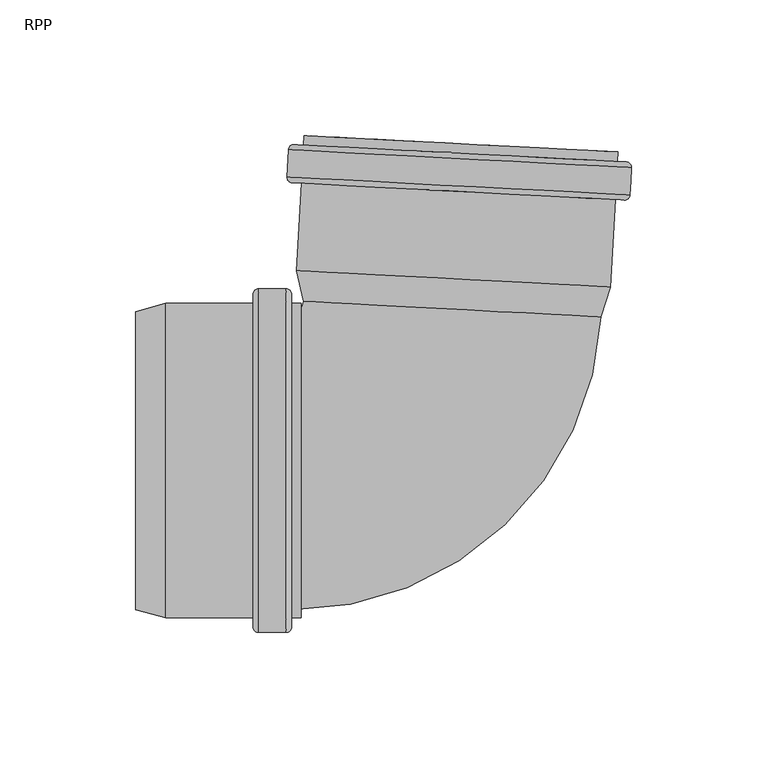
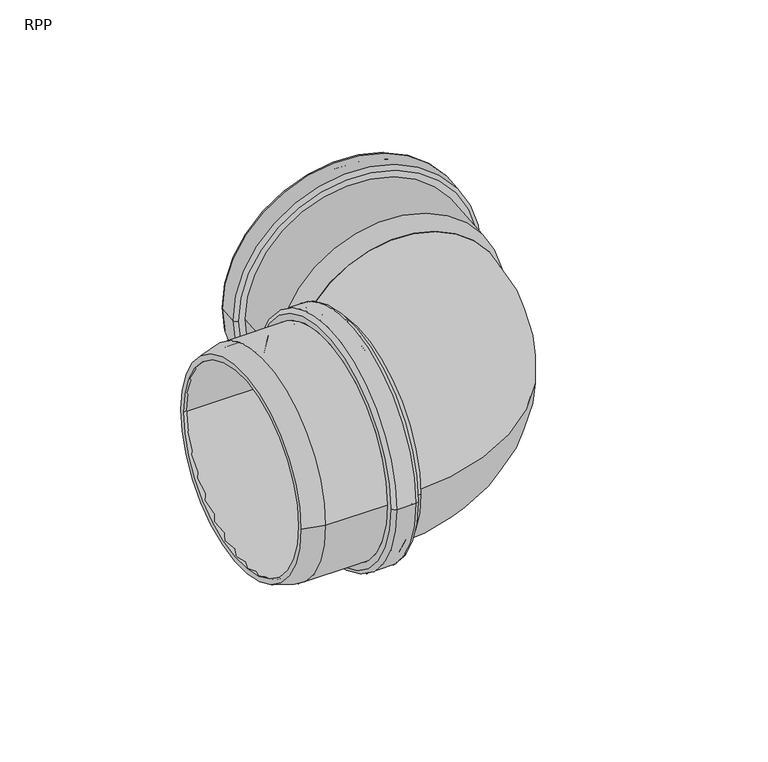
"""IFC4 building model written with IfcOpenShell, lengths in millimetres: pipe fitting geometry, RAUPIANO PLUS Bend : RPP."""

from ifc_helpers import new_model, si_unit, point, frame, origin, place, context, project, spatial, polyline, circle_curve, ellipse_curve, trimmed, source, transform, mapped, element, save
from ifc_brep_helpers import plane_surface, cylinder_surface, revolved_surface, advanced_brep


def rpp_c20ba653(model_context):
    return source(origin(), model_context, "Body", "AdvancedBrep", [
        advanced_brep(
        [(-67.7889094, -55.3, 0.0), (-67.7889094, 55.3, 0.0), (-102.4372953, 55.3, 0.0), (-102.4372953, -55.3, 0.0), (-67.2889094, -60.7, 0.0), (-67.2889094, 60.7, 0.0), (-67.7889094, 60.2, 0.0), (-67.7889094, -60.2, 0.0), (-59.5889094, -60.7, 0.0), (-59.5889094, 60.7, 0.0), (-59.0889094, -60.2, 0.0), (-59.0889094, 60.2, 0.0), (-52.8889094, -55.3, 0.0), (-52.8889094, 55.3, 0.0), (-59.0889094, 55.3, 0.0), (-59.0889094, -55.3, 0.0), (-56.3889094, -58.0, 0.0), (-56.3889094, 58.0, 0.0), (-52.8889094, 58.0, 0.0), (-52.8889094, -58.0, 0.0), (-58.3889094, -63.4, 0.0), (-58.3889094, 63.4, 0.0), (-56.3889094, 61.4, 0.0), (-56.3889094, -61.4, 0.0), (-68.4889094, -63.4, 0.0), (-68.4889094, 63.4, 0.0), (-70.4889094, -61.4, 0.0), (-70.4889094, 61.4, 0.0), (-102.792757, -58.0, 0.0), (-102.792757, 58.0, 0.0), (-70.4889094, 58.0, 0.0), (-70.4889094, -58.0, 0.0), (-113.9889094, -55.0, 0.0), (-113.9889094, 55.0, 0.0), (-113.9889094, 52.2047543, 0.0), (-113.9889094, -52.2047543, 0.0)],
        [
            (0, 1, circle_curve(frame((-67.7889094, 0.0, 0.0), z_axis=(1.0, 0.0, 0.0), x_axis=(0.0, 1.0, 0.0)), 55.3)),
            (1, 2),
            (2, 3, circle_curve(frame((-102.4372953, 0.0, 0.0), z_axis=(-1.0, 0.0, 0.0), x_axis=(0.0, 1.0, 0.0)), 55.3)),
            (3, 0),
            (4, 5, circle_curve(frame((-67.2889094, 0.0, 0.0), z_axis=(1.0, 0.0, 0.0), x_axis=(0.0, 1.0, 0.0)), 60.7)),
            (5, 6, circle_curve(frame((-67.2889094, 60.2, 0.0), z_axis=(0.0, 0.0, 1.0), x_axis=(0.0, -1.0, 0.0)), 0.5)),
            (6, 7, circle_curve(frame((-67.7889094, 0.0, 0.0), z_axis=(-1.0, 0.0, 0.0), x_axis=(0.0, 1.0, 0.0)), 60.2)),
            (7, 4, circle_curve(frame((-67.2889094, -60.2, 0.0), z_axis=(0.0, 0.0, 1.0), x_axis=(0.0, 1.0, 0.0)), 0.5)),
            (8, 9, circle_curve(frame((-59.5889094, 0.0, 0.0), z_axis=(1.0, 0.0, 0.0), x_axis=(0.0, 1.0, 0.0)), 60.7)),
            (9, 5),
            (4, 8),
            (10, 11, circle_curve(frame((-59.0889094, 0.0, 0.0), z_axis=(1.0, 0.0, 0.0), x_axis=(0.0, 1.0, 0.0)), 60.2)),
            (11, 9, circle_curve(frame((-59.5889094, 60.2, 0.0), z_axis=(0.0, 0.0, 1.0), x_axis=(0.0, -1.0, 0.0)), 0.5)),
            (8, 10, circle_curve(frame((-59.5889094, -60.2, 0.0), z_axis=(0.0, 0.0, 1.0), x_axis=(0.0, 1.0, 0.0)), 0.5)),
            (12, 13, circle_curve(frame((-52.8889094, 0.0, 0.0), z_axis=(1.0, 0.0, 0.0), x_axis=(0.0, 1.0, 0.0)), 55.3)),
            (13, 14),
            (14, 15, circle_curve(frame((-59.0889094, 0.0, 0.0), z_axis=(-1.0, 0.0, 0.0), x_axis=(0.0, 1.0, 0.0)), 55.3)),
            (15, 12),
            (16, 17, circle_curve(frame((-56.3889094, 0.0, 0.0), z_axis=(1.0, 0.0, 0.0), x_axis=(0.0, 1.0, 0.0)), 58.0)),
            (17, 18),
            (18, 19, circle_curve(frame((-52.8889094, 0.0, 0.0), z_axis=(-1.0, 0.0, 0.0), x_axis=(0.0, 1.0, 0.0)), 58.0)),
            (19, 16),
            (20, 21, circle_curve(frame((-58.3889094, 0.0, 0.0), z_axis=(1.0, 0.0, 0.0), x_axis=(0.0, 1.0, 0.0)), 63.4)),
            (21, 22, circle_curve(frame((-58.3889094, 61.4, 0.0), z_axis=(0.0, 0.0, -1.0), x_axis=(0.0, -1.0, 0.0)), 2.0)),
            (22, 23, circle_curve(frame((-56.3889094, 0.0, 0.0), z_axis=(-1.0, 0.0, 0.0), x_axis=(0.0, 1.0, 0.0)), 61.4)),
            (23, 20, circle_curve(frame((-58.3889094, -61.4, 0.0), z_axis=(0.0, 0.0, -1.0), x_axis=(0.0, 1.0, 0.0)), 2.0)),
            (24, 25, circle_curve(frame((-68.4889094, 0.0, 0.0), z_axis=(1.0, 0.0, 0.0), x_axis=(0.0, 1.0, 0.0)), 63.4)),
            (25, 21),
            (20, 24),
            (26, 27, circle_curve(frame((-70.4889094, 0.0, 0.0), z_axis=(1.0, 0.0, 0.0), x_axis=(0.0, 1.0, 0.0)), 61.4)),
            (27, 25, circle_curve(frame((-68.4889094, 61.4, 0.0), z_axis=(0.0, 0.0, -1.0), x_axis=(0.0, -1.0, 0.0)), 2.0)),
            (24, 26, circle_curve(frame((-68.4889094, -61.4, 0.0), z_axis=(0.0, 0.0, -1.0), x_axis=(0.0, 1.0, 0.0)), 2.0)),
            (28, 29, circle_curve(frame((-102.792757, 0.0, 0.0), z_axis=(1.0, 0.0, 0.0), x_axis=(0.0, 1.0, 0.0)), 58.0)),
            (29, 30),
            (30, 31, circle_curve(frame((-70.4889094, 0.0, 0.0), z_axis=(-1.0, 0.0, 0.0), x_axis=(0.0, 1.0, 0.0)), 58.0)),
            (31, 28),
            (32, 33, circle_curve(frame((-113.9889094, 0.0, 0.0), z_axis=(1.0, 0.0, 0.0), x_axis=(0.0, 1.0, 0.0)), 55.0)),
            (33, 29),
            (28, 32),
            (2, 34),
            (34, 35, circle_curve(frame((-113.9889094, 0.0, 0.0), z_axis=(-1.0, 0.0, 0.0), x_axis=(0.0, 1.0, 0.0)), 52.2047543)),
            (35, 3),
            (1, 0, circle_curve(frame((-67.7889094, 0.0, 0.0), z_axis=(1.0, 0.0, 0.0), x_axis=(0.0, -1.0, 0.0)), 55.3)),
            (3, 2, circle_curve(frame((-102.4372953, 0.0, 0.0), z_axis=(-1.0, 0.0, 0.0), x_axis=(0.0, -1.0, 0.0)), 55.3)),
            (6, 7, circle_curve(frame((-67.7889094, 0.0, 0.0), z_axis=(1.0, 0.0, 0.0), x_axis=(0.0, -1.0, 0.0)), 60.2)),
            (5, 4, circle_curve(frame((-67.2889094, 0.0, 0.0), z_axis=(1.0, 0.0, 0.0), x_axis=(0.0, -1.0, 0.0)), 60.7)),
            (9, 8, circle_curve(frame((-59.5889094, 0.0, 0.0), z_axis=(1.0, 0.0, 0.0), x_axis=(0.0, -1.0, 0.0)), 60.7)),
            (11, 10, circle_curve(frame((-59.0889094, 0.0, 0.0), z_axis=(1.0, 0.0, 0.0), x_axis=(0.0, -1.0, 0.0)), 60.2)),
            (14, 15, circle_curve(frame((-59.0889094, 0.0, 0.0), z_axis=(1.0, 0.0, 0.0), x_axis=(0.0, -1.0, 0.0)), 55.3)),
            (13, 12, circle_curve(frame((-52.8889094, 0.0, 0.0), z_axis=(1.0, 0.0, 0.0), x_axis=(0.0, -1.0, 0.0)), 55.3)),
            (18, 19, circle_curve(frame((-52.8889094, 0.0, 0.0), z_axis=(1.0, 0.0, 0.0), x_axis=(0.0, -1.0, 0.0)), 58.0)),
            (17, 16, circle_curve(frame((-56.3889094, 0.0, 0.0), z_axis=(1.0, 0.0, 0.0), x_axis=(0.0, -1.0, 0.0)), 58.0)),
            (22, 23, circle_curve(frame((-56.3889094, 0.0, 0.0), z_axis=(1.0, 0.0, 0.0), x_axis=(0.0, -1.0, 0.0)), 61.4)),
            (21, 20, circle_curve(frame((-58.3889094, 0.0, 0.0), z_axis=(1.0, 0.0, 0.0), x_axis=(0.0, -1.0, 0.0)), 63.4)),
            (25, 24, circle_curve(frame((-68.4889094, 0.0, 0.0), z_axis=(1.0, 0.0, 0.0), x_axis=(0.0, -1.0, 0.0)), 63.4)),
            (27, 26, circle_curve(frame((-70.4889094, 0.0, 0.0), z_axis=(1.0, 0.0, 0.0), x_axis=(0.0, -1.0, 0.0)), 61.4)),
            (30, 31, circle_curve(frame((-70.4889094, 0.0, 0.0), z_axis=(1.0, 0.0, 0.0), x_axis=(0.0, -1.0, 0.0)), 58.0)),
            (29, 28, circle_curve(frame((-102.792757, 0.0, 0.0), z_axis=(1.0, 0.0, 0.0), x_axis=(0.0, -1.0, 0.0)), 58.0)),
            (33, 32, circle_curve(frame((-113.9889094, 0.0, 0.0), z_axis=(1.0, 0.0, 0.0), x_axis=(0.0, -1.0, 0.0)), 55.0)),
            (34, 35, circle_curve(frame((-113.9889094, 0.0, 0.0), z_axis=(1.0, 0.0, 0.0), x_axis=(0.0, -1.0, 0.0)), 52.2047543)),
        ],
        [
            revolved_surface(polyline([(-102.4372953, 55.3, 0.0), (-67.7889094, 55.3, 0.0)]), (-113.9889094, 0.0, 0.0), (-1.0, 0.0, 0.0)),
            revolved_surface(trimmed(ellipse_curve(frame((-67.2889094, 60.2, 0.0), z_axis=(0.0, 0.0, -1.0), x_axis=(0.0, -1.0, 0.0)), 0.5, 0.5), [point((-67.7889094, 60.2, 0.0))], [point((-67.2889094, 60.7, 0.0))], True, "CARTESIAN"), (-113.9889094, 0.0, 0.0), (-1.0, 0.0, 0.0)),
            revolved_surface(polyline([(-67.2889094, 60.7, 0.0), (-59.5889094, 60.7, 0.0)]), (-113.9889094, 0.0, 0.0), (-1.0, 0.0, 0.0)),
            revolved_surface(trimmed(ellipse_curve(frame((-59.5889094, 60.2, 0.0), z_axis=(0.0, 0.0, -1.0), x_axis=(0.0, -1.0, 0.0)), 0.5, 0.5), [point((-59.5889094, 60.7, 0.0))], [point((-59.0889094, 60.2, 0.0))], True, "CARTESIAN"), (-113.9889094, 0.0, 0.0), (-1.0, 0.0, 0.0)),
            revolved_surface(polyline([(-59.0889094, 55.3, 0.0), (-52.8889094, 55.3, 0.0)]), (-113.9889094, 0.0, 0.0), (-1.0, 0.0, 0.0)),
            cylinder_surface(frame((-113.9889094, 0.0, 0.0), z_axis=(-1.0, 0.0, 0.0), x_axis=(0.0, 1.0, 0.0)), 58.0),
            revolved_surface(trimmed(ellipse_curve(frame((-58.3889094, 61.4, 0.0), z_axis=(0.0, 0.0, 1.0), x_axis=(0.0, -1.0, 0.0)), 2.0, 2.0), [point((-56.3889094, 61.4, 0.0))], [point((-58.3889094, 63.4, 0.0))], True, "CARTESIAN"), (-113.9889094, 0.0, 0.0), (-1.0, 0.0, 0.0)),
            cylinder_surface(frame((-113.9889094, 0.0, 0.0), z_axis=(-1.0, 0.0, 0.0), x_axis=(0.0, 1.0, 0.0)), 63.4),
            revolved_surface(trimmed(ellipse_curve(frame((-68.4889094, 61.4, 0.0), z_axis=(0.0, 0.0, 1.0), x_axis=(0.0, -1.0, 0.0)), 2.0, 2.0), [point((-68.4889094, 63.4, 0.0))], [point((-70.4889094, 61.4, 0.0))], True, "CARTESIAN"), (-113.9889094, 0.0, 0.0), (-1.0, 0.0, 0.0)),
            revolved_surface(polyline([(-102.792757, 58.0, 0.0), (-113.9889094, 55.0, 0.0)]), (-113.9889094, 0.0, 0.0), (-1.0, 0.0, 0.0)),
            revolved_surface(polyline([(-113.9889094, 52.2047543, 0.0), (-102.4372953, 55.3, 0.0)]), (-113.9889094, 0.0, 0.0), (-1.0, 0.0, 0.0)),
            revolved_surface(polyline([(-102.4372953, -55.3, 0.0), (-67.7889094, -55.3, 0.0)]), (-113.9889094, 0.0, 0.0), (-1.0, 0.0, 0.0)),
            plane_surface(frame((-67.7889094, 0.0, 0.0), z_axis=(1.0, 0.0, 0.0), x_axis=(0.0, -1.0, 0.0))),
            revolved_surface(trimmed(ellipse_curve(frame((-67.2889094, -60.2, 0.0), z_axis=(0.0, 0.0, 1.0), x_axis=(0.0, 1.0, 0.0)), 0.5, 0.5), [point((-67.7889094, -60.2, 0.0))], [point((-67.2889094, -60.7, 0.0))], True, "CARTESIAN"), (-113.9889094, 0.0, 0.0), (-1.0, 0.0, 0.0)),
            revolved_surface(polyline([(-67.2889094, -60.7, 0.0), (-59.5889094, -60.7, 0.0)]), (-113.9889094, 0.0, 0.0), (-1.0, 0.0, 0.0)),
            revolved_surface(trimmed(ellipse_curve(frame((-59.5889094, -60.2, 0.0), z_axis=(0.0, 0.0, 1.0), x_axis=(0.0, 1.0, 0.0)), 0.5, 0.5), [point((-59.5889094, -60.7, 0.0))], [point((-59.0889094, -60.2, 0.0))], True, "CARTESIAN"), (-113.9889094, 0.0, 0.0), (-1.0, 0.0, 0.0)),
            plane_surface(frame((-59.0889094, 0.0, 0.0), z_axis=(-1.0, 0.0, 0.0), x_axis=(0.0, -1.0, 0.0))),
            revolved_surface(polyline([(-59.0889094, -55.3, 0.0), (-52.8889094, -55.3, 0.0)]), (-113.9889094, 0.0, 0.0), (-1.0, 0.0, 0.0)),
            plane_surface(frame((-52.8889094, 0.0, 0.0), z_axis=(1.0, 0.0, 0.0), x_axis=(0.0, -1.0, 0.0))),
            cylinder_surface(frame((-113.9889094, 0.0, 0.0), z_axis=(-1.0, 0.0, 0.0), x_axis=(0.0, -1.0, 0.0)), 58.0),
            plane_surface(frame((-56.3889094, 0.0, 0.0), z_axis=(1.0, 0.0, 0.0), x_axis=(0.0, -1.0, 0.0))),
            revolved_surface(trimmed(ellipse_curve(frame((-58.3889094, -61.4, 0.0), z_axis=(0.0, 0.0, -1.0), x_axis=(0.0, 1.0, 0.0)), 2.0, 2.0), [point((-56.3889094, -61.4, 0.0))], [point((-58.3889094, -63.4, 0.0))], True, "CARTESIAN"), (-113.9889094, 0.0, 0.0), (-1.0, 0.0, 0.0)),
            cylinder_surface(frame((-113.9889094, 0.0, 0.0), z_axis=(-1.0, 0.0, 0.0), x_axis=(0.0, -1.0, 0.0)), 63.4),
            revolved_surface(trimmed(ellipse_curve(frame((-68.4889094, -61.4, 0.0), z_axis=(0.0, 0.0, -1.0), x_axis=(0.0, 1.0, 0.0)), 2.0, 2.0), [point((-68.4889094, -63.4, 0.0))], [point((-70.4889094, -61.4, 0.0))], True, "CARTESIAN"), (-113.9889094, 0.0, 0.0), (-1.0, 0.0, 0.0)),
            plane_surface(frame((-70.4889094, 0.0, 0.0), z_axis=(-1.0, 0.0, 0.0), x_axis=(0.0, -1.0, 0.0))),
            revolved_surface(polyline([(-102.792757, -58.0, 0.0), (-113.9889094, -55.0, 0.0)]), (-113.9889094, 0.0, 0.0), (-1.0, 0.0, 0.0)),
            plane_surface(frame((-113.9889094, 0.0, 0.0), z_axis=(-1.0, 0.0, 0.0), x_axis=(0.0, -1.0, 0.0))),
            revolved_surface(polyline([(-113.9889094, -52.2047543, 0.0), (-102.4372953, -55.3, 0.0)]), (-113.9889094, 0.0, 0.0), (-1.0, 0.0, 0.0)),
        ],
        [
            (0, [[1, 2, 3, 4]]),
            (1, [[5, 6, 7, 8]]),
            (2, [[9, 10, -5, 11]]),
            (3, [[12, 13, -9, 14]]),
            (4, [[15, 16, 17, 18]]),
            (5, [[19, 20, 21, 22]]),
            (6, [[23, 24, 25, 26]]),
            (7, [[27, 28, -23, 29]]),
            (8, [[30, 31, -27, 32]]),
            (5, [[33, 34, 35, 36]]),
            (9, [[37, 38, -33, 39]]),
            (10, [[-3, 40, 41, 42]]),
            (11, [[43, -4, 44, -2]]),
            (12, [[45, -7], [-43, -1]]),
            (13, [[46, -8, -45, -6]]),
            (14, [[47, -11, -46, -10]]),
            (15, [[48, -14, -47, -13]]),
            (16, [[-48, -12], [49, -17]]),
            (17, [[50, -18, -49, -16]]),
            (18, [[51, -21], [-50, -15]]),
            (19, [[52, -22, -51, -20]]),
            (20, [[53, -25], [-52, -19]]),
            (21, [[54, -26, -53, -24]]),
            (22, [[55, -29, -54, -28]]),
            (23, [[56, -32, -55, -31]]),
            (24, [[-56, -30], [57, -35]]),
            (19, [[58, -36, -57, -34]]),
            (25, [[59, -39, -58, -38]]),
            (26, [[-59, -37], [60, -41]]),
            (27, [[-44, -42, -60, -40]]),
        ],
    ),
        advanced_brep(
        [(55.0634426, 53.1799928, 0.0), (-49.2029764, 58.6443643, 0.0), (-51.6894154, 70.34214, 0.0), (58.7590112, 64.5537833, 0.0), (61.4367075, 64.0575016, 0.0), (-54.4043186, 70.1284725, 0.0), (-51.9943913, 58.7906562, 0.0), (57.8548575, 53.033701, 0.0), (63.1273602, 96.3170779, 0.0), (-52.7136658, 102.3880488, 0.0), (69.1532248, 108.1178811, 0.0), (-57.4730002, 114.7540803, 0.0), (-58.0015934, 104.667922, 0.0), (68.6246316, 98.0317228, 0.0), (64.0484731, 113.8929577, 0.0), (-51.792553, 119.9639286, 0.0), (-51.9757288, 116.4687252, 0.0), (63.8652972, 110.3977543, 0.0), (61.0276904, 107.8427617, 0.0), (-49.4207362, 113.6311184, 0.0), (-49.0962532, 119.8226215, 0.0), (61.3521733, 114.0342648, 0.0), (65.991135, 99.3713853, 0.0), (-55.2424905, 105.7249704, 0.0), (-54.8395036, 113.4144178, 0.0), (66.3941219, 107.0608327, 0.0), (-49.876059, 104.9430415, 0.0), (60.5723676, 99.1546847, 0.0), (-56.1090062, 102.5659911, 0.0), (66.5227006, 96.1391356, 0.0), (67.2606376, 110.2198121, 0.0), (-55.3710692, 116.6466675, 0.0), (-54.3140209, 113.8875646, 0.0), (65.9209751, 107.5863155, 0.0), (65.4656523, 98.8982385, 0.0), (-54.7693437, 105.1994877, 0.0)],
        [
            (0, 1, circle_curve(frame((2.9302331, 55.9121786, 0.0), z_axis=(-0.05233595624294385, -0.9986295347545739, 0.0), x_axis=(-0.9986295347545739, 0.05233595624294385, 0.0)), 52.2047543)),
            (1, 2),
            (2, 3, circle_curve(frame((3.5347979, 67.4479617, 0.0), z_axis=(0.05233595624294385, 0.9986295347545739, 0.0), x_axis=(-0.9986295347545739, 0.05233595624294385, 0.0)), 55.3)),
            (3, 0),
            (4, 5, circle_curve(frame((3.5161945, 67.0929871, 0.0), z_axis=(-0.05233595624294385, -0.9986295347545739, 0.0), x_axis=(-0.9986295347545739, 0.05233595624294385, 0.0)), 58.0)),
            (5, 6),
            (6, 7, circle_curve(frame((2.9302331, 55.9121786, 0.0), z_axis=(0.05233595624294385, 0.9986295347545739, 0.0), x_axis=(-0.9986295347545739, 0.05233595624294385, 0.0)), 55.0)),
            (7, 4),
            (8, 9, circle_curve(frame((5.2068472, 99.3525633, 0.0), z_axis=(-0.05233595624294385, -0.9986295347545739, 0.0), x_axis=(-0.9986295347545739, 0.05233595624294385, 0.0)), 58.0)),
            (9, 5),
            (4, 8),
            (10, 11, circle_curve(frame((5.8401123, 111.4359807, 0.0), z_axis=(-0.05233595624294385, -0.9986295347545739, 0.0), x_axis=(-0.9986295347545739, 0.05233595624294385, 0.0)), 63.4)),
            (11, 12),
            (12, 13, circle_curve(frame((5.3115191, 101.3498224, 0.0), z_axis=(0.05233595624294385, 0.9986295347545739, 0.0), x_axis=(-0.9986295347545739, 0.05233595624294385, 0.0)), 63.4)),
            (13, 10),
            (14, 15, circle_curve(frame((6.12796, 116.9284432, 0.0), z_axis=(-0.05233595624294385, -0.9986295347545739, 0.0), x_axis=(-0.9986295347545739, 0.05233595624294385, 0.0)), 58.0)),
            (15, 16),
            (16, 17, circle_curve(frame((5.9447842, 113.4332398, 0.0), z_axis=(0.05233595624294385, 0.9986295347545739, 0.0), x_axis=(-0.9986295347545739, 0.05233595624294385, 0.0)), 58.0)),
            (17, 14),
            (18, 19, circle_curve(frame((5.8034771, 110.73694, 0.0), z_axis=(-0.05233595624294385, -0.9986295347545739, 0.0), x_axis=(-0.9986295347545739, 0.05233595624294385, 0.0)), 55.3)),
            (19, 20),
            (20, 21, circle_curve(frame((6.12796, 116.9284432, 0.0), z_axis=(0.05233595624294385, 0.9986295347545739, 0.0), x_axis=(-0.9986295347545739, 0.05233595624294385, 0.0)), 55.3)),
            (21, 18),
            (22, 23, circle_curve(frame((5.3743223, 102.5481779, 0.0), z_axis=(-0.05233595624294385, -0.9986295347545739, 0.0), x_axis=(-0.9986295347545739, 0.05233595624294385, 0.0)), 60.7)),
            (23, 24),
            (24, 25, circle_curve(frame((5.7773091, 110.2376253, 0.0), z_axis=(0.05233595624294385, 0.9986295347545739, 0.0), x_axis=(-0.9986295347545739, 0.05233595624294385, 0.0)), 60.7)),
            (25, 22),
            (2, 26),
            (26, 27, circle_curve(frame((5.3481543, 102.0488631, 0.0), z_axis=(0.05233595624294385, 0.9986295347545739, 0.0), x_axis=(-0.9986295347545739, 0.05233595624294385, 0.0)), 55.3)),
            (27, 3),
            (1, 0, circle_curve(frame((2.9302331, 55.9121786, 0.0), z_axis=(-0.05233595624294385, -0.9986295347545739, 0.0), x_axis=(0.9986295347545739, -0.05233595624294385, 0.0)), 52.2047543)),
            (3, 2, circle_curve(frame((3.5347979, 67.4479617, 0.0), z_axis=(0.05233595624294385, 0.9986295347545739, 0.0), x_axis=(0.9986295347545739, -0.05233595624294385, 0.0)), 55.3)),
            (6, 7, circle_curve(frame((2.9302331, 55.9121786, 0.0), z_axis=(-0.05233595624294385, -0.9986295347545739, 0.0), x_axis=(0.9986295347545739, -0.05233595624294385, 0.0)), 55.0)),
            (5, 4, circle_curve(frame((3.5161945, 67.0929871, 0.0), z_axis=(-0.05233595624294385, -0.9986295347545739, 0.0), x_axis=(0.9986295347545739, -0.05233595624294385, 0.0)), 58.0)),
            (9, 8, circle_curve(frame((5.2068472, 99.3525633, 0.0), z_axis=(-0.05233595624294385, -0.9986295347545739, 0.0), x_axis=(0.9986295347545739, -0.05233595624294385, 0.0)), 58.0)),
            (28, 29, circle_curve(frame((5.2068472, 99.3525633, 0.0), z_axis=(-0.05233595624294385, -0.9986295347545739, 0.0), x_axis=(0.9986295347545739, -0.05233595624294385, 0.0)), 61.4)),
            (29, 28, circle_curve(frame((5.2068472, 99.3525633, 0.0), z_axis=(-0.05233595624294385, -0.9986295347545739, 0.0), x_axis=(-0.9986295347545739, 0.05233595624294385, 0.0)), 61.4)),
            (11, 10, circle_curve(frame((5.8401123, 111.4359807, 0.0), z_axis=(-0.05233595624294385, -0.9986295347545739, 0.0), x_axis=(0.9986295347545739, -0.05233595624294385, 0.0)), 63.4)),
            (13, 12, circle_curve(frame((5.3115191, 101.3498224, 0.0), z_axis=(0.05233595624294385, 0.9986295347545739, 0.0), x_axis=(0.9986295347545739, -0.05233595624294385, 0.0)), 63.4)),
            (30, 31, circle_curve(frame((5.9447842, 113.4332398, 0.0), z_axis=(0.05233595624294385, 0.9986295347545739, 0.0), x_axis=(0.9986295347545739, -0.05233595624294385, 0.0)), 61.4)),
            (31, 30, circle_curve(frame((5.9447842, 113.4332398, 0.0), z_axis=(0.05233595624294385, 0.9986295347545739, 0.0), x_axis=(-0.9986295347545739, 0.05233595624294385, 0.0)), 61.4)),
            (16, 17, circle_curve(frame((5.9447842, 113.4332398, 0.0), z_axis=(-0.05233595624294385, -0.9986295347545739, 0.0), x_axis=(0.9986295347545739, -0.05233595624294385, 0.0)), 58.0)),
            (15, 14, circle_curve(frame((6.12796, 116.9284432, 0.0), z_axis=(-0.05233595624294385, -0.9986295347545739, 0.0), x_axis=(0.9986295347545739, -0.05233595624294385, 0.0)), 58.0)),
            (20, 21, circle_curve(frame((6.12796, 116.9284432, 0.0), z_axis=(-0.05233595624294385, -0.9986295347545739, 0.0), x_axis=(0.9986295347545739, -0.05233595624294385, 0.0)), 55.3)),
            (19, 18, circle_curve(frame((5.8034771, 110.73694, 0.0), z_axis=(-0.05233595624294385, -0.9986295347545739, 0.0), x_axis=(0.9986295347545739, -0.05233595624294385, 0.0)), 55.3)),
            (32, 33, circle_curve(frame((5.8034771, 110.73694, 0.0), z_axis=(-0.05233595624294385, -0.9986295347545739, 0.0), x_axis=(0.9986295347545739, -0.05233595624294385, 0.0)), 60.2)),
            (33, 32, circle_curve(frame((5.8034771, 110.73694, 0.0), z_axis=(-0.05233595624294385, -0.9986295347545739, 0.0), x_axis=(-0.9986295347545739, 0.05233595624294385, 0.0)), 60.2)),
            (23, 22, circle_curve(frame((5.3743223, 102.5481779, 0.0), z_axis=(-0.05233595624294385, -0.9986295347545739, 0.0), x_axis=(0.9986295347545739, -0.05233595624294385, 0.0)), 60.7)),
            (25, 24, circle_curve(frame((5.7773091, 110.2376253, 0.0), z_axis=(0.05233595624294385, 0.9986295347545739, 0.0), x_axis=(0.9986295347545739, -0.05233595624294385, 0.0)), 60.7)),
            (34, 35, circle_curve(frame((5.3481543, 102.0488631, 0.0), z_axis=(0.05233595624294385, 0.9986295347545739, 0.0), x_axis=(0.9986295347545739, -0.05233595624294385, 0.0)), 60.2)),
            (35, 34, circle_curve(frame((5.3481543, 102.0488631, 0.0), z_axis=(0.05233595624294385, 0.9986295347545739, 0.0), x_axis=(-0.9986295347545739, 0.05233595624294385, 0.0)), 60.2)),
            (26, 27, circle_curve(frame((5.3481543, 102.0488631, 0.0), z_axis=(-0.05233595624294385, -0.9986295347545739, 0.0), x_axis=(0.9986295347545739, -0.05233595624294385, 0.0)), 55.3)),
            (12, 28, circle_curve(frame((-56.0043343, 104.5632501, 0.0), z_axis=(0.0, 0.0, 1.0), x_axis=(0.9986295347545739, -0.05233595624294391, 0.0)), 2.0)),
            (29, 13, circle_curve(frame((66.6273726, 98.1363947, 0.0), z_axis=(0.0, 0.0, 1.0), x_axis=(-0.9986295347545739, 0.052335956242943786, 0.0)), 2.0)),
            (31, 11, circle_curve(frame((-55.4757412, 114.6494084, 0.0), z_axis=(0.0, 0.0, 1.0), x_axis=(0.9986295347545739, -0.05233595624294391, 0.0)), 2.0)),
            (10, 30, circle_curve(frame((67.1559657, 108.222553, 0.0), z_axis=(0.0, 0.0, 1.0), x_axis=(-0.9986295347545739, 0.052335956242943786, 0.0)), 2.0)),
            (24, 32, circle_curve(frame((-54.3401889, 113.3882498, 0.0), z_axis=(0.0, 0.0, -1.0), x_axis=(0.9986295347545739, -0.05233595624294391, 0.0)), 0.5)),
            (33, 25, circle_curve(frame((65.8948071, 107.0870007, 0.0), z_axis=(0.0, 0.0, -1.0), x_axis=(-0.9986295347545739, 0.052335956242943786, 0.0)), 0.5)),
            (35, 23, circle_curve(frame((-54.7431757, 105.6988024, 0.0), z_axis=(0.0, 0.0, -1.0), x_axis=(0.9986295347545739, -0.05233595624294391, 0.0)), 0.5)),
            (22, 34, circle_curve(frame((65.4918203, 99.3975533, 0.0), z_axis=(0.0, 0.0, -1.0), x_axis=(-0.9986295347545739, 0.052335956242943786, 0.0)), 0.5)),
        ],
        [
            revolved_surface(polyline([(-51.6894154, 70.34214, 0.0), (-49.2029764, 58.6443643, 0.0)]), (2.9302331, 55.9121786, 0.0), (0.05233595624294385, 0.9986295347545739, 0.0)),
            revolved_surface(polyline([(-51.9943913, 58.7906562, 0.0), (-54.4043186, 70.1284725, 0.0)]), (2.9302331, 55.9121786, 0.0), (0.05233595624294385, 0.9986295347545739, 0.0)),
            cylinder_surface(frame((2.9302331, 55.9121786, 0.0), z_axis=(0.05233595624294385, 0.9986295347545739, 0.0), x_axis=(-0.9986295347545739, 0.05233595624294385, 0.0)), 58.0),
            cylinder_surface(frame((2.9302331, 55.9121786, 0.0), z_axis=(0.05233595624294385, 0.9986295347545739, 0.0), x_axis=(-0.9986295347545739, 0.05233595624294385, 0.0)), 63.4),
            revolved_surface(polyline([(-49.09625324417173, 119.82262157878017, 0.0), (-49.42073617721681, 113.63111838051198, 0.0)]), (2.9302331, 55.9121786, 0.0), (0.05233595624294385, 0.9986295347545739, 0.0)),
            revolved_surface(polyline([(-54.83950363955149, 113.41441784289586, 0.0), (-55.242490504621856, 105.7249703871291, 0.0)]), (2.9302331, 55.9121786, 0.0), (0.05233595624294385, 0.9986295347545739, 0.0)),
            revolved_surface(polyline([(-49.87605899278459, 104.94304149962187, 0.0), (-51.68941540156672, 70.34214000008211, 0.0)]), (2.9302331, 55.9121786, 0.0), (0.05233595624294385, 0.9986295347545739, 0.0)),
            revolved_surface(polyline([(58.7590112, 64.5537833, 0.0), (55.0634426, 53.1799928, 0.0)]), (2.9302331, 55.9121786, 0.0), (0.05233595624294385, 0.9986295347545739, 0.0)),
            plane_surface(frame((2.9302331, 55.9121786, 0.0), z_axis=(-0.05233595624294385, -0.9986295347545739, 0.0), x_axis=(0.9986295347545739, -0.05233595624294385, 0.0))),
            revolved_surface(polyline([(57.8548575, 53.033701, 0.0), (61.4367075, 64.0575016, 0.0)]), (2.9302331, 55.9121786, 0.0), (0.05233595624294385, 0.9986295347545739, 0.0)),
            cylinder_surface(frame((2.9302331, 55.9121786, 0.0), z_axis=(0.05233595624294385, 0.9986295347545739, 0.0), x_axis=(0.9986295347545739, -0.05233595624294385, 0.0)), 58.0),
            plane_surface(frame((5.2068472, 99.3525633, 0.0), z_axis=(-0.05233595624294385, -0.9986295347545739, 0.0), x_axis=(0.9986295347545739, -0.05233595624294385, 0.0))),
            cylinder_surface(frame((2.9302331, 55.9121786, 0.0), z_axis=(0.05233595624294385, 0.9986295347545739, 0.0), x_axis=(0.9986295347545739, -0.05233595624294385, 0.0)), 63.4),
            plane_surface(frame((5.9447842, 113.4332398, 0.0), z_axis=(0.05233595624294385, 0.9986295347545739, 0.0), x_axis=(0.9986295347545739, -0.05233595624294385, 0.0))),
            plane_surface(frame((6.12796, 116.9284432, 0.0), z_axis=(0.05233595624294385, 0.9986295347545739, 0.0), x_axis=(0.9986295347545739, -0.05233595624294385, 0.0))),
            revolved_surface(polyline([(61.35217329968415, 114.03426481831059, 0.0), (61.027690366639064, 107.8427616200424, 0.0)]), (2.9302331, 55.9121786, 0.0), (0.05233595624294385, 0.9986295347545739, 0.0)),
            plane_surface(frame((5.8034771, 110.73694, 0.0), z_axis=(-0.05233595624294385, -0.9986295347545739, 0.0), x_axis=(0.9986295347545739, -0.05233595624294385, 0.0))),
            revolved_surface(polyline([(66.3941218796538, 107.06083275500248, 0.0), (65.99113501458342, 99.37138529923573, 0.0)]), (2.9302331, 55.9121786, 0.0), (0.05233595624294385, 0.9986295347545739, 0.0)),
            plane_surface(frame((5.3481543, 102.0488631, 0.0), z_axis=(0.05233595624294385, 0.9986295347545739, 0.0), x_axis=(0.9986295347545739, -0.05233595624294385, 0.0))),
            revolved_surface(polyline([(60.57236755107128, 99.15468473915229, 0.0), (58.759011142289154, 64.55378323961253, 0.0)]), (2.9302331, 55.9121786, 0.0), (0.05233595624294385, 0.9986295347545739, 0.0)),
            revolved_surface(trimmed(ellipse_curve(frame((-56.0043343, 104.5632501, 0.0), z_axis=(0.0, 0.0, -1.0), x_axis=(0.9986295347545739, -0.05233595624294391, 0.0)), 2.0, 2.0), [point((-56.1090062, 102.5659911, 0.0))], [point((-58.0015934, 104.667922, 0.0))], True, "CARTESIAN"), (2.9302331, 55.9121786, 0.0), (0.05233595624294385, 0.9986295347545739, 0.0)),
            revolved_surface(trimmed(ellipse_curve(frame((-55.4757412, 114.6494084, 0.0), z_axis=(0.0, 0.0, -1.0), x_axis=(0.9986295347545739, -0.05233595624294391, 0.0)), 2.0, 2.0), [point((-57.4730002, 114.7540803, 0.0))], [point((-55.3710692, 116.6466675, 0.0))], True, "CARTESIAN"), (2.9302331, 55.9121786, 0.0), (0.05233595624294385, 0.9986295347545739, 0.0)),
            revolved_surface(trimmed(ellipse_curve(frame((-54.3401889, 113.3882498, 0.0), z_axis=(0.0, 0.0, 1.0), x_axis=(0.9986295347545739, -0.05233595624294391, 0.0)), 0.5, 0.5), [point((-54.3140209, 113.8875646, 0.0))], [point((-54.8395036, 113.4144178, 0.0))], True, "CARTESIAN"), (2.9302331, 55.9121786, 0.0), (0.05233595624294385, 0.9986295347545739, 0.0)),
            revolved_surface(trimmed(ellipse_curve(frame((-54.7431757, 105.6988024, 0.0), z_axis=(0.0, 0.0, 1.0), x_axis=(0.9986295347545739, -0.05233595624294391, 0.0)), 0.5, 0.5), [point((-55.2424905, 105.7249704, 0.0))], [point((-54.7693437, 105.1994877, 0.0))], True, "CARTESIAN"), (2.9302331, 55.9121786, 0.0), (0.05233595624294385, 0.9986295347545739, 0.0)),
            revolved_surface(trimmed(ellipse_curve(frame((66.6273726, 98.1363947, 0.0), z_axis=(0.0, 0.0, 1.0), x_axis=(-0.9986295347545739, 0.05233595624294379, 0.0)), 2.0, 2.0), [point((66.5227006, 96.1391356, 0.0))], [point((68.6246316, 98.0317228, 0.0))], True, "CARTESIAN"), (2.9302331, 55.9121786, 0.0), (0.05233595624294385, 0.9986295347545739, 0.0)),
            revolved_surface(trimmed(ellipse_curve(frame((67.1559657, 108.222553, 0.0), z_axis=(0.0, 0.0, 1.0), x_axis=(-0.9986295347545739, 0.05233595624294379, 0.0)), 2.0, 2.0), [point((69.1532248, 108.1178811, 0.0))], [point((67.2606376, 110.2198121, 0.0))], True, "CARTESIAN"), (2.9302331, 55.9121786, 0.0), (0.05233595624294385, 0.9986295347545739, 0.0)),
            revolved_surface(trimmed(ellipse_curve(frame((65.8948071, 107.0870007, 0.0), z_axis=(0.0, 0.0, -1.0), x_axis=(-0.9986295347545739, 0.05233595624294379, 0.0)), 0.5, 0.5), [point((65.9209751, 107.5863155, 0.0))], [point((66.3941219, 107.0608327, 0.0))], True, "CARTESIAN"), (2.9302331, 55.9121786, 0.0), (0.05233595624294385, 0.9986295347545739, 0.0)),
            revolved_surface(trimmed(ellipse_curve(frame((65.4918203, 99.3975533, 0.0), z_axis=(0.0, 0.0, -1.0), x_axis=(-0.9986295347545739, 0.05233595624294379, 0.0)), 0.5, 0.5), [point((65.991135, 99.3713853, 0.0))], [point((65.4656523, 98.8982385, 0.0))], True, "CARTESIAN"), (2.9302331, 55.9121786, 0.0), (0.05233595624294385, 0.9986295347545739, 0.0)),
        ],
        [
            (0, [[1, 2, 3, 4]]),
            (1, [[5, 6, 7, 8]]),
            (2, [[9, 10, -5, 11]]),
            (3, [[12, 13, 14, 15]]),
            (2, [[16, 17, 18, 19]]),
            (4, [[20, 21, 22, 23]]),
            (5, [[24, 25, 26, 27]]),
            (6, [[-3, 28, 29, 30]]),
            (7, [[31, -4, 32, -2]]),
            (8, [[33, -7], [-31, -1]]),
            (9, [[34, -8, -33, -6]]),
            (10, [[35, -11, -34, -10]]),
            (11, [[36, 37], [-35, -9]]),
            (12, [[38, -15, 39, -13]]),
            (13, [[40, 41], [42, -18]]),
            (10, [[43, -19, -42, -17]]),
            (14, [[-43, -16], [44, -22]]),
            (15, [[45, -23, -44, -21]]),
            (16, [[46, 47], [-45, -20]]),
            (17, [[48, -27, 49, -25]]),
            (18, [[50, 51], [52, -29]]),
            (19, [[-32, -30, -52, -28]]),
            (20, [[-14, 53, -37, 54]]),
            (21, [[-41, 55, -12, 56]]),
            (22, [[-26, 57, -47, 58]]),
            (23, [[-51, 59, -24, 60]]),
            (24, [[-39, -54, -36, -53]]),
            (25, [[-40, -56, -38, -55]]),
            (26, [[-49, -58, -46, -57]]),
            (27, [[-50, -60, -48, -59]]),
        ],
    ),
        advanced_brep(
        [(-55.9889094, 52.3, 0.0), (-55.9889094, -52.3, 0.0), (-113.9889094, -52.3, 0.0), (-113.9889094, 52.3, 0.0), (-106.8980129, 55.0, 0.0), (-106.8980129, -55.0, 0.0), (-55.9889094, -55.0, 0.0), (-55.9889094, 55.0, 0.0), (-113.9889094, 53.1, 0.0), (-113.9889094, -53.1, 0.0)],
        [
            (0, 1, circle_curve(frame((-55.9889094, 0.0, 0.0), z_axis=(1.0, 0.0, 0.0), x_axis=(0.0, -1.0, 0.0)), 52.3)),
            (1, 2),
            (2, 3, circle_curve(frame((-113.9889094, 0.0, 0.0), z_axis=(-1.0, 0.0, 0.0), x_axis=(0.0, -1.0, 0.0)), 52.3)),
            (3, 0),
            (4, 5, circle_curve(frame((-106.8980129, 0.0, 0.0), z_axis=(1.0, 0.0, 0.0), x_axis=(0.0, -1.0, 0.0)), 55.0)),
            (5, 6),
            (6, 7, circle_curve(frame((-55.9889094, 0.0, 0.0), z_axis=(-1.0, 0.0, 0.0), x_axis=(0.0, -1.0, 0.0)), 55.0)),
            (7, 4),
            (8, 9, circle_curve(frame((-113.9889094, 0.0, 0.0), z_axis=(1.0, 0.0, 0.0), x_axis=(0.0, -1.0, 0.0)), 53.1)),
            (9, 5),
            (4, 8),
            (1, 0, circle_curve(frame((-55.9889094, 0.0, 0.0), z_axis=(1.0, 0.0, 0.0), x_axis=(0.0, 1.0, 0.0)), 52.3)),
            (3, 2, circle_curve(frame((-113.9889094, 0.0, 0.0), z_axis=(-1.0, 0.0, 0.0), x_axis=(0.0, 1.0, 0.0)), 52.3)),
            (6, 7, circle_curve(frame((-55.9889094, 0.0, 0.0), z_axis=(1.0, 0.0, 0.0), x_axis=(0.0, 1.0, 0.0)), 55.0)),
            (5, 4, circle_curve(frame((-106.8980129, 0.0, 0.0), z_axis=(1.0, 0.0, 0.0), x_axis=(0.0, 1.0, 0.0)), 55.0)),
            (9, 8, circle_curve(frame((-113.9889094, 0.0, 0.0), z_axis=(1.0, 0.0, 0.0), x_axis=(0.0, 1.0, 0.0)), 53.1)),
        ],
        [
            revolved_surface(polyline([(-113.9889094, -52.3, 0.0), (-55.9889094, -52.3, 0.0)]), (-55.9889094, 0.0, 0.0), (-1.0, 0.0, 0.0)),
            cylinder_surface(frame((-55.9889094, 0.0, 0.0), z_axis=(-1.0, 0.0, 0.0), x_axis=(0.0, -1.0, 0.0)), 55.0),
            revolved_surface(polyline([(-106.8980129, -55.0, 0.0), (-113.9889094, -53.1, 0.0)]), (-55.9889094, 0.0, 0.0), (-1.0, 0.0, 0.0)),
            revolved_surface(polyline([(-113.9889094, 52.3, 0.0), (-55.9889094, 52.3, 0.0)]), (-55.9889094, 0.0, 0.0), (-1.0, 0.0, 0.0)),
            plane_surface(frame((-55.9889094, 0.0, 0.0), z_axis=(1.0, 0.0, 0.0), x_axis=(0.0, 1.0, 0.0))),
            cylinder_surface(frame((-55.9889094, 0.0, 0.0), z_axis=(-1.0, 0.0, 0.0), x_axis=(0.0, 1.0, 0.0)), 55.0),
            revolved_surface(polyline([(-106.8980129, 55.0, 0.0), (-113.9889094, 53.1, 0.0)]), (-55.9889094, 0.0, 0.0), (-1.0, 0.0, 0.0)),
            plane_surface(frame((-113.9889094, 0.0, 0.0), z_axis=(-1.0, 0.0, 0.0), x_axis=(0.0, 1.0, 0.0))),
        ],
        [
            (0, [[1, 2, 3, 4]]),
            (1, [[5, 6, 7, 8]]),
            (2, [[9, 10, -5, 11]]),
            (3, [[12, -4, 13, -2]]),
            (4, [[14, -7], [-12, -1]]),
            (5, [[15, -8, -14, -6]]),
            (6, [[16, -11, -15, -10]]),
            (7, [[-16, -9], [-13, -3]]),
        ],
    ),
        advanced_brep(
        [(-55.9889094, -55.0, 0.0), (-55.9889094, 55.0, 0.0), (-55.9889094, -52.3, 0.0), (-55.9889094, 52.3, 0.0), (57.8548575, 53.033701, 0.0), (-51.9943913, 58.7906562, 0.0), (55.1585578, 53.1750081, 0.0), (-49.2980916, 58.6493491, 0.0)],
        [
            (0, 1, circle_curve(frame((-55.9889094, 0.0, 0.0), z_axis=(-1.0, 0.0, 0.0), x_axis=(0.0, 1.0, 0.0)), 55.0)),
            (1, 0, circle_curve(frame((-55.9889094, 0.0, 0.0), z_axis=(-1.0, 0.0, 0.0), x_axis=(0.0, 1.0, 0.0)), 55.0)),
            (2, 3, circle_curve(frame((-55.9889094, 0.0, 0.0), z_axis=(1.0, 0.0, 0.0), x_axis=(0.0, 1.0, 0.0)), 52.3)),
            (3, 2, circle_curve(frame((-55.9889094, 0.0, 0.0), z_axis=(1.0, 0.0, 0.0), x_axis=(0.0, 1.0, 0.0)), 52.3)),
            (4, 5, circle_curve(frame((2.9302331, 55.9121786, 0.0), z_axis=(0.05233595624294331, 0.9986295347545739, 0.0), x_axis=(-0.9986295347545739, 0.05233595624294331, 0.0)), 55.0)),
            (5, 4, circle_curve(frame((2.9302331, 55.9121786, 0.0), z_axis=(0.05233595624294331, 0.9986295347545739, 0.0), x_axis=(-0.9986295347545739, 0.05233595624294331, 0.0)), 55.0)),
            (6, 7, circle_curve(frame((2.9302331, 55.9121786, 0.0), z_axis=(-0.05233595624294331, -0.9986295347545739, 0.0), x_axis=(-0.9986295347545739, 0.05233595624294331, 0.0)), 52.3)),
            (7, 6, circle_curve(frame((2.9302331, 55.9121786, 0.0), z_axis=(-0.05233595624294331, -0.9986295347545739, 0.0), x_axis=(-0.9986295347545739, 0.05233595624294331, 0.0)), 52.3)),
            (7, 3, circle_curve(frame((-55.9889094, 59.0, 0.0), z_axis=(0.0, 0.0, -1.0), x_axis=(0.0, -1.0, 0.0)), 6.7)),
            (2, 6, circle_curve(frame((-55.9889094, 59.0, 0.0), z_axis=(0.0, 0.0, 1.0), x_axis=(0.0, -1.0, 0.0)), 111.3)),
            (5, 1, circle_curve(frame((-55.9889094, 59.0, 0.0), z_axis=(0.0, 0.0, -1.0), x_axis=(0.0, -1.0, 0.0)), 4.0)),
            (0, 4, circle_curve(frame((-55.9889094, 59.0, 0.0), z_axis=(0.0, 0.0, 1.0), x_axis=(0.0, -1.0, 0.0)), 114.0)),
        ],
        [
            plane_surface(frame((-55.9889094, 0.0, 0.0), z_axis=(-1.0, 0.0, 0.0), x_axis=(0.0, 0.0, 1.0))),
            plane_surface(frame((2.9302331, 55.9121786, 0.0), z_axis=(0.05233595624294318, 0.9986295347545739, 0.0), x_axis=(0.0, 0.0, 1.0))),
            revolved_surface(trimmed(ellipse_curve(frame((-55.9889094, 0.0, 0.0), z_axis=(1.0, 0.0, 0.0), x_axis=(0.0, 1.0, 0.0)), 52.3, 52.3), [point((-55.9889094, -52.3, 0.0))], [point((-55.9889094, 52.3, 0.0))], True, "CARTESIAN"), (-55.9889094, 59.0, 0.0), (0.0, 0.0, 1.0)),
            revolved_surface(trimmed(ellipse_curve(frame((-55.9889094, 0.0, 0.0), z_axis=(1.0, 0.0, 0.0), x_axis=(0.0, 1.0, 0.0)), 52.3, 52.3), [point((-55.9889094, 52.3, 0.0))], [point((-55.9889094, -52.3, 0.0))], True, "CARTESIAN"), (-55.9889094, 59.0, 0.0), (0.0, 0.0, 1.0)),
            revolved_surface(trimmed(ellipse_curve(frame((-55.9889094, 0.0, 0.0), z_axis=(-1.0, 0.0, 0.0), x_axis=(0.0, 1.0, 0.0)), 55.0, 55.0), [point((-55.9889094, -55.0, 0.0))], [point((-55.9889094, 55.0, 0.0))], True, "CARTESIAN"), (-55.9889094, 59.0, 0.0), (0.0, 0.0, 1.0)),
            revolved_surface(trimmed(ellipse_curve(frame((-55.9889094, 0.0, 0.0), z_axis=(-1.0, 0.0, 0.0), x_axis=(0.0, 1.0, 0.0)), 55.0, 55.0), [point((-55.9889094, 55.0, 0.0))], [point((-55.9889094, -55.0, 0.0))], True, "CARTESIAN"), (-55.9889094, 59.0, 0.0), (0.0, 0.0, 1.0)),
        ],
        [
            (0, [[1, 2], [3, 4]]),
            (1, [[5, 6], [7, 8]]),
            (2, [[9, -3, 10, -8]]),
            (3, [[-10, -4, -9, -7]]),
            (4, [[11, -1, 12, -6]]),
            (5, [[-12, -2, -11, -5]]),
        ],
    ),
    ])


if __name__ == "__main__":
    model = new_model("IFC4")
    model_context = context("Model", 3, world=origin())
    ifc_project = project(units=[si_unit("LENGTHUNIT", "METRE", prefix="MILLI")], contexts=[model_context])
    site = spatial("IfcSite", under=ifc_project)
    building = spatial("IfcBuilding", under=site)
    placement = place(None, origin())
    rpp_shape = rpp_c20ba653(model_context)
    element("IfcPipeFitting", 1, ObjectType="RAUPIANO PLUS Bend : RPP", at=placement, inside=building, context=model_context, shape_type="MappedRepresentation", body=[
        mapped(rpp_shape, transform((0.0, 0.0, 0.0), x_axis=(1.0, 0.0, 0.0), y_axis=(0.0, 1.0, 0.0), z_axis=(0.0, 0.0, 1.0))),
    ])
    save(model, "model.ifc")
